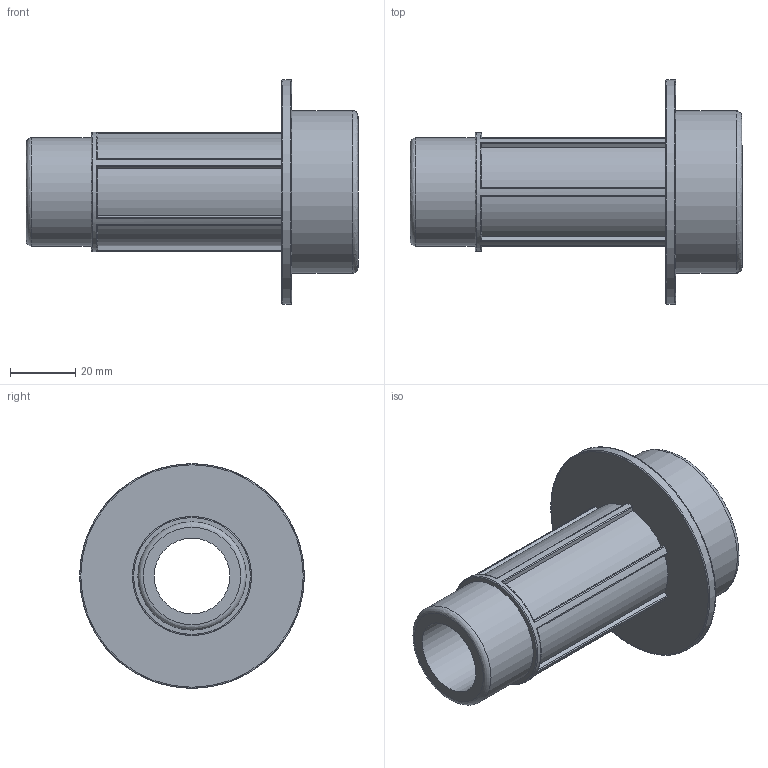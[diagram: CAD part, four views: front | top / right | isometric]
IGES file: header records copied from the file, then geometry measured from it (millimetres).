
Global section: file name: 078901050010.ipt; native system: Autodesk Inventor 2015; preprocessor: unknown; author: KIM; date: 20180409.130856; units: millimetre
Bounding box: 102 x 69 x 69 mm (x, y, z)
Volume: 77979.5 mm3; surface area: 27256.4 mm2
Topology: 1 solids, 1 shells, 57 faces, 163 edges, 111 vertices
Faces by surface type: plane 23, cylinder 22, revolution 12
Full cylindrical faces by diameter (mm): 33.249 x1, 36.574 x1, 50 x1, 69 x1
